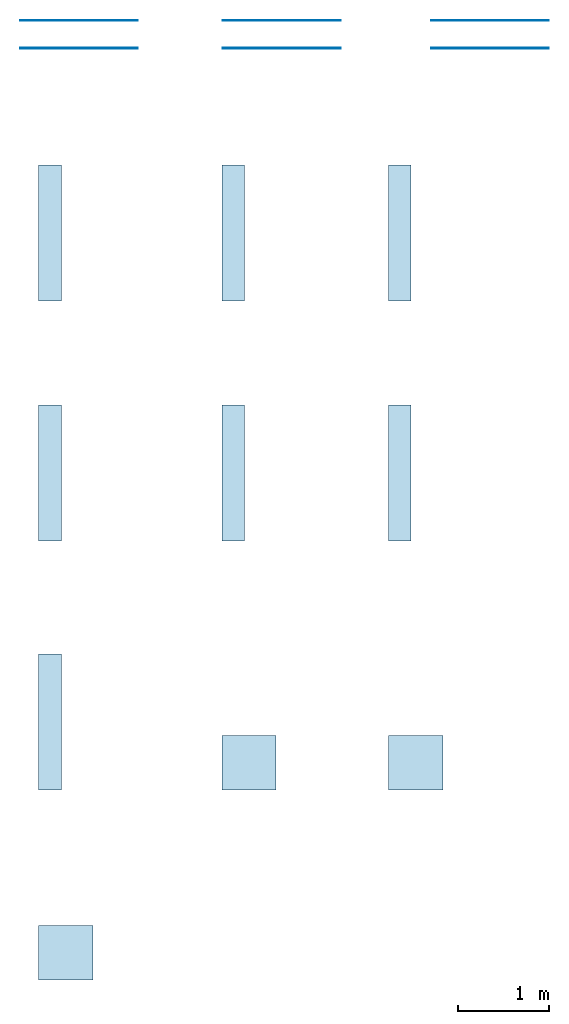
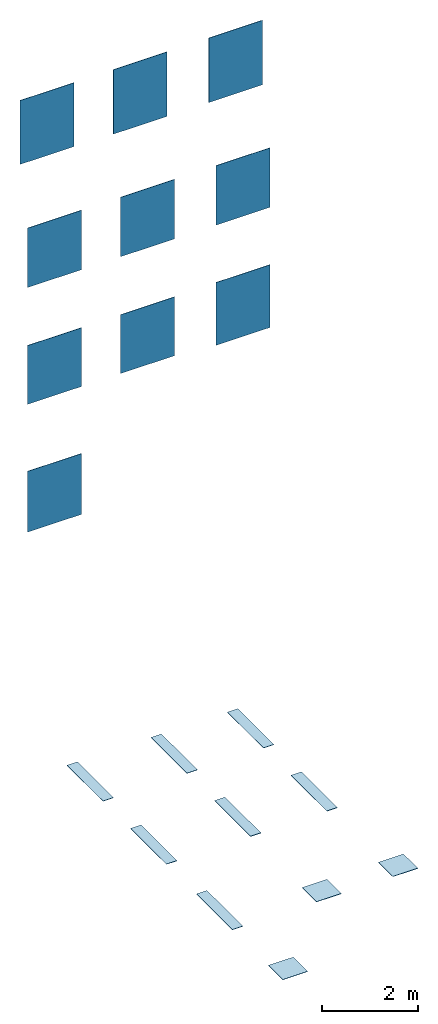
# One storey: 10 slabs, 10 walls.
"""IFC2X3 building model written with IfcOpenShell, lengths in millimetres."""

from ifc_helpers import new_model, entity, si_unit, converted_unit, derived_unit, direction, frame, frame_2d, origin, origin_2d_with_axis, place, context, subcontext, project, spatial, rectangle, extrude, material, layer, layer_set, layer_usage, type_object, element, save


model = new_model("IFC2X3")

# Units and contexts
model_context = context("Model", 3, precision=0.01, world=origin(), true_north=direction((6.123031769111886e-17, 1.0)))
body_context = subcontext(model_context, "Body", "Model", "MODEL_VIEW")
ifc_project = project(units=[si_unit("LENGTHUNIT", "METRE", prefix="MILLI"), si_unit("AREAUNIT", "SQUARE_METRE"), si_unit("VOLUMEUNIT", "CUBIC_METRE"), converted_unit("PLANEANGLEUNIT", "DEGREE", entity("IfcPlaneAngleMeasure", 0.017453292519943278), si_unit("PLANEANGLEUNIT", "RADIAN"), dimensions=[0, 0, 0, 0, 0, 0, 0]), si_unit("MASSUNIT", "GRAM", prefix="KILO"), derived_unit("MASSDENSITYUNIT", [(si_unit("MASSUNIT", "GRAM", prefix="KILO"), 1), (si_unit("LENGTHUNIT", "METRE"), -3)]), derived_unit("IONCONCENTRATIONUNIT", [(si_unit("MASSUNIT", "GRAM", prefix="KILO"), 1), (si_unit("LENGTHUNIT", "METRE"), -3)]), derived_unit("MOMENTOFINERTIAUNIT", [(si_unit("LENGTHUNIT", "METRE"), 4)]), si_unit("TIMEUNIT", "SECOND"), si_unit("FREQUENCYUNIT", "HERTZ"), si_unit("THERMODYNAMICTEMPERATUREUNIT", "DEGREE_CELSIUS"), derived_unit("THERMALTRANSMITTANCEUNIT", [(si_unit("MASSUNIT", "GRAM", prefix="KILO"), 1), (si_unit("THERMODYNAMICTEMPERATUREUNIT", "KELVIN"), -1), (si_unit("TIMEUNIT", "SECOND"), -3)]), derived_unit("THERMALCONDUCTANCEUNIT", [(si_unit("MASSUNIT", "GRAM", prefix="KILO"), 1), (si_unit("THERMODYNAMICTEMPERATUREUNIT", "KELVIN"), -1), (si_unit("TIMEUNIT", "SECOND"), -3), (si_unit("LENGTHUNIT", "METRE"), 1)]), derived_unit("VOLUMETRICFLOWRATEUNIT", [(si_unit("LENGTHUNIT", "METRE", prefix="DECI"), 3), (si_unit("TIMEUNIT", "SECOND"), -1)]), derived_unit("MASSFLOWRATEUNIT", [(si_unit("MASSUNIT", "GRAM", prefix="KILO"), 1), (si_unit("TIMEUNIT", "SECOND"), -1)]), derived_unit("ROTATIONALFREQUENCYUNIT", [(si_unit("TIMEUNIT", "SECOND"), -1)]), si_unit("ELECTRICCURRENTUNIT", "AMPERE"), si_unit("ELECTRICVOLTAGEUNIT", "VOLT"), si_unit("POWERUNIT", "WATT"), si_unit("FORCEUNIT", "NEWTON", prefix="KILO"), si_unit("ILLUMINANCEUNIT", "LUX"), si_unit("LUMINOUSFLUXUNIT", "LUMEN"), si_unit("LUMINOUSINTENSITYUNIT", "CANDELA"), si_unit("ENERGYUNIT", "JOULE"), derived_unit("USERDEFINED", [(si_unit("MASSUNIT", "GRAM", prefix="KILO"), -1), (si_unit("LENGTHUNIT", "METRE"), -2), (si_unit("TIMEUNIT", "SECOND"), 3), (si_unit("LUMINOUSFLUXUNIT", "LUMEN"), 1)]), derived_unit("USERDEFINED", [(si_unit("MASSUNIT", "GRAM", prefix="KILO"), 1), (si_unit("TIMEUNIT", "SECOND"), -3), (si_unit("LENGTHUNIT", "METRE"), 3), (si_unit("ELECTRICCURRENTUNIT", "AMPERE"), -2)]), derived_unit("SOUNDPOWERUNIT", [(si_unit("MASSUNIT", "GRAM", prefix="KILO"), 1), (si_unit("TIMEUNIT", "SECOND"), -3), (si_unit("LENGTHUNIT", "METRE"), 2)]), derived_unit("SOUNDPRESSUREUNIT", [(si_unit("MASSUNIT", "GRAM", prefix="KILO"), 1), (si_unit("LENGTHUNIT", "METRE"), -1), (si_unit("TIMEUNIT", "SECOND"), -2)]), derived_unit("LINEARVELOCITYUNIT", [(si_unit("LENGTHUNIT", "METRE"), 1), (si_unit("TIMEUNIT", "SECOND"), -1)]), si_unit("PRESSUREUNIT", "PASCAL"), derived_unit("USERDEFINED", [(si_unit("MASSUNIT", "GRAM", prefix="KILO"), 1), (si_unit("LENGTHUNIT", "METRE"), -2), (si_unit("TIMEUNIT", "SECOND"), -2)]), derived_unit("LINEARFORCEUNIT", [(si_unit("MASSUNIT", "GRAM", prefix="KILO"), 1), (si_unit("TIMEUNIT", "SECOND"), -2)]), derived_unit("PLANARFORCEUNIT", [(si_unit("MASSUNIT", "GRAM", prefix="KILO"), 1), (si_unit("LENGTHUNIT", "METRE"), -1), (si_unit("TIMEUNIT", "SECOND"), -2)]), derived_unit("SPECIFICHEATCAPACITYUNIT", [(si_unit("THERMODYNAMICTEMPERATUREUNIT", "KELVIN"), -1), (si_unit("LENGTHUNIT", "METRE"), 2), (si_unit("TIMEUNIT", "SECOND"), -2)]), derived_unit("HEATFLUXDENSITYUNIT", [(si_unit("MASSUNIT", "GRAM", prefix="KILO"), 1), (si_unit("TIMEUNIT", "SECOND"), -3)]), derived_unit("HEATINGVALUEUNIT", [(si_unit("LENGTHUNIT", "METRE"), 2), (si_unit("TIMEUNIT", "SECOND"), -2)]), derived_unit("VAPORPERMEABILITYUNIT", [(si_unit("LENGTHUNIT", "METRE"), -1), (si_unit("TIMEUNIT", "SECOND"), 1)]), derived_unit("DYNAMICVISCOSITYUNIT", [(si_unit("MASSUNIT", "GRAM", prefix="KILO"), 1), (si_unit("TIMEUNIT", "SECOND"), -1), (si_unit("LENGTHUNIT", "METRE"), -1)]), derived_unit("THERMALEXPANSIONCOEFFICIENTUNIT", [(si_unit("THERMODYNAMICTEMPERATUREUNIT", "KELVIN"), -1)]), derived_unit("MODULUSOFELASTICITYUNIT", [(si_unit("MASSUNIT", "GRAM", prefix="KILO"), 1), (si_unit("LENGTHUNIT", "METRE"), -1), (si_unit("TIMEUNIT", "SECOND"), -2)]), derived_unit("ISOTHERMALMOISTURECAPACITYUNIT", [(si_unit("MASSUNIT", "GRAM", prefix="KILO"), -1), (si_unit("LENGTHUNIT", "METRE"), 3)]), derived_unit("MOISTUREDIFFUSIVITYUNIT", [(si_unit("TIMEUNIT", "SECOND"), -1), (si_unit("LENGTHUNIT", "METRE"), 2)]), derived_unit("MASSPERLENGTHUNIT", [(si_unit("MASSUNIT", "GRAM", prefix="KILO"), 1), (si_unit("LENGTHUNIT", "METRE"), -1)]), derived_unit("THERMALRESISTANCEUNIT", [(si_unit("MASSUNIT", "GRAM", prefix="KILO"), -1), (si_unit("TIMEUNIT", "SECOND"), 3), (si_unit("THERMODYNAMICTEMPERATUREUNIT", "KELVIN"), 1)]), derived_unit("ACCELERATIONUNIT", [(si_unit("LENGTHUNIT", "METRE"), 1), (si_unit("TIMEUNIT", "SECOND"), -2)]), derived_unit("ANGULARVELOCITYUNIT", [(si_unit("TIMEUNIT", "SECOND"), -1), (si_unit("PLANEANGLEUNIT", "RADIAN"), 1)]), derived_unit("LINEARSTIFFNESSUNIT", [(si_unit("MASSUNIT", "GRAM", prefix="KILO"), 1), (si_unit("TIMEUNIT", "SECOND"), -2)]), derived_unit("WARPINGCONSTANTUNIT", [(si_unit("LENGTHUNIT", "METRE"), 6)]), derived_unit("LINEARMOMENTUNIT", [(si_unit("MASSUNIT", "GRAM", prefix="KILO"), 1), (si_unit("LENGTHUNIT", "METRE"), 1), (si_unit("TIMEUNIT", "SECOND"), -2)]), derived_unit("TORQUEUNIT", [(si_unit("MASSUNIT", "GRAM", prefix="KILO"), 1), (si_unit("LENGTHUNIT", "METRE"), 2), (si_unit("TIMEUNIT", "SECOND"), -2)])], contexts=[model_context])

# Site, building, storey
site_placement = place(None, origin())
site = spatial("IfcSite", under=ifc_project, at=site_placement, Name="Default", CompositionType="ELEMENT")
building_placement = place(site_placement, origin())
building = spatial("IfcBuilding", under=site, at=building_placement, CompositionType="ELEMENT")
storey_placement = place(building_placement, origin())
storey = spatial("IfcBuildingStorey", under=building, at=storey_placement, Name="Level 0", CompositionType="ELEMENT", Elevation=0.0)

# Slabs
ifc_material_1 = material(Name="Tamashi-Caviar-Matt-25x150 RA94")
ifc_layer_1 = layer(ifc_material_1, 9.0)
ifc_material_2 = material(Name="<Unnamed>")
ifc_layer_2 = layer(ifc_material_2, 1.0)
ifc_layer_set_1 = layer_set([ifc_layer_1, ifc_layer_2], Name="Floor:Floor_Tiles_Refin-Tamashi-Caviar-Matt_25x150_RA94")
ifc_layer_usage_1 = layer_usage(ifc_layer_set_1, "AXIS3", "POSITIVE", 0.0)
slab_type_1 = type_object("IfcSlabType", Name="Floor:Floor_Tiles_Refin-Tamashi-Caviar-Matt_25x150_RA94", PredefinedType="FLOOR", material=ifc_layer_set_1)
slab_1_placement = place(storey_placement, origin())
element("IfcSlab", 1, at=slab_1_placement, inside=storey, type_object=slab_type_1, material=ifc_layer_usage_1, Name="Floor:Floor_Tiles_Refin-Tamashi-Caviar-Matt_25x150_RA94", ObjectType="Floor:Floor_Tiles_Refin-Tamashi-Caviar-Matt_25x150_RA94", PredefinedType="FLOOR", context=body_context, shape_type="SweptSolid", body=[
    extrude(rectangle(XDim=1500.0, YDim=249.9999999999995, at=frame_2d((-5.115907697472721e-13, 0.0), x_axis=(1.0, 0.0))), frame((6249.375206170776, 5788.419206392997, 0.0), z_axis=(0.0, 0.0, -1.0), x_axis=(0.0, 1.0, 0.0)), (0.0, 0.0, 1.0), 10.0),
])
ifc_material_3 = material(Name="Tamashi-Cream-Matt-25x150 RA95")
ifc_layer_3 = layer(ifc_material_3, 9.0)
ifc_layer_4 = layer(ifc_material_2, 1.0)
ifc_layer_set_2 = layer_set([ifc_layer_3, ifc_layer_4], Name="Floor:Floor_Tiles_Refin-Tamashi-Cream-Matt_25x150_RA95")
ifc_layer_usage_2 = layer_usage(ifc_layer_set_2, "AXIS3", "POSITIVE", 0.0)
slab_type_2 = type_object("IfcSlabType", Name="Floor:Floor_Tiles_Refin-Tamashi-Cream-Matt_25x150_RA95", PredefinedType="FLOOR", material=ifc_layer_set_2)
slab_2_placement = place(storey_placement, origin())
element("IfcSlab", 2, at=slab_2_placement, inside=storey, type_object=slab_type_2, material=ifc_layer_usage_2, Name="Floor:Floor_Tiles_Refin-Tamashi-Cream-Matt_25x150_RA95", ObjectType="Floor:Floor_Tiles_Refin-Tamashi-Cream-Matt_25x150_RA95", PredefinedType="FLOOR", context=body_context, shape_type="SweptSolid", body=[
    extrude(rectangle(XDim=1500.0, YDim=249.9999999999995, at=frame_2d((-5.115907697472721e-13, 0.0), x_axis=(1.0, 0.0))), frame((8272.392405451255, 5788.41920639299, 0.0), z_axis=(0.0, 0.0, -1.0), x_axis=(0.0, 1.0, 0.0)), (0.0, 0.0, 1.0), 10.0),
])
ifc_material_4 = material(Name="Tamashi-Pepper-Matt-25x150 RA96")
ifc_layer_5 = layer(ifc_material_4, 9.0)
ifc_layer_6 = layer(ifc_material_2, 1.0)
ifc_layer_set_3 = layer_set([ifc_layer_5, ifc_layer_6], Name="Floor:Floor_Tiles_Refin-Tamashi-Pepper-Matt_25x150_RA96")
ifc_layer_usage_3 = layer_usage(ifc_layer_set_3, "AXIS3", "POSITIVE", 0.0)
slab_type_3 = type_object("IfcSlabType", Name="Floor:Floor_Tiles_Refin-Tamashi-Pepper-Matt_25x150_RA96", PredefinedType="FLOOR", material=ifc_layer_set_3)
slab_3_placement = place(storey_placement, origin())
element("IfcSlab", 3, at=slab_3_placement, inside=storey, type_object=slab_type_3, material=ifc_layer_usage_3, Name="Floor:Floor_Tiles_Refin-Tamashi-Pepper-Matt_25x150_RA96", ObjectType="Floor:Floor_Tiles_Refin-Tamashi-Pepper-Matt_25x150_RA96", PredefinedType="FLOOR", context=body_context, shape_type="SweptSolid", body=[
    extrude(rectangle(XDim=1500.0, YDim=249.9999999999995, at=frame_2d((5.115907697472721e-13, 0.0), x_axis=(1.0, 0.0))), frame((10112.392405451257, 5788.419206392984, 0.0), z_axis=(0.0, 0.0, -1.0), x_axis=(0.0, 1.0, 0.0)), (0.0, 0.0, 1.0), 10.0),
])
ifc_material_5 = material(Name="Tamashi-Sugar-Matt-25x150 RA97")
ifc_layer_7 = layer(ifc_material_5, 9.0)
ifc_layer_8 = layer(ifc_material_2, 1.0)
ifc_layer_set_4 = layer_set([ifc_layer_7, ifc_layer_8], Name="Floor:Floor_Tiles_Refin-Tamashi-Sugar-Matt_25x150_RA97")
ifc_layer_usage_4 = layer_usage(ifc_layer_set_4, "AXIS3", "POSITIVE", 0.0)
slab_type_4 = type_object("IfcSlabType", Name="Floor:Floor_Tiles_Refin-Tamashi-Sugar-Matt_25x150_RA97", PredefinedType="FLOOR", material=ifc_layer_set_4)
slab_4_placement = place(storey_placement, origin())
element("IfcSlab", 4, at=slab_4_placement, inside=storey, type_object=slab_type_4, material=ifc_layer_usage_4, Name="Floor:Floor_Tiles_Refin-Tamashi-Sugar-Matt_25x150_RA97", ObjectType="Floor:Floor_Tiles_Refin-Tamashi-Sugar-Matt_25x150_RA97", PredefinedType="FLOOR", context=body_context, shape_type="SweptSolid", body=[
    extrude(rectangle(XDim=1500.0, YDim=249.9999999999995, at=origin_2d_with_axis()), frame((6249.375206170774, 3139.462374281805, 0.0), z_axis=(0.0, 0.0, -1.0), x_axis=(0.0, 1.0, 0.0)), (0.0, 0.0, 1.0), 10.0),
])
ifc_material_6 = material(Name="Tamashi-Tea-Matt-25x150 RA98")
ifc_layer_9 = layer(ifc_material_6, 9.0)
ifc_layer_10 = layer(ifc_material_2, 1.0)
ifc_layer_set_5 = layer_set([ifc_layer_9, ifc_layer_10], Name="Floor:Floor_Tiles_Refin-Tamashi-Tea-Matt_25x150_RA98")
ifc_layer_usage_5 = layer_usage(ifc_layer_set_5, "AXIS3", "POSITIVE", 0.0)
slab_type_5 = type_object("IfcSlabType", Name="Floor:Floor_Tiles_Refin-Tamashi-Tea-Matt_25x150_RA98", PredefinedType="FLOOR", material=ifc_layer_set_5)
slab_5_placement = place(storey_placement, origin())
element("IfcSlab", 5, at=slab_5_placement, inside=storey, type_object=slab_type_5, material=ifc_layer_usage_5, Name="Floor:Floor_Tiles_Refin-Tamashi-Tea-Matt_25x150_RA98", ObjectType="Floor:Floor_Tiles_Refin-Tamashi-Tea-Matt_25x150_RA98", PredefinedType="FLOOR", context=body_context, shape_type="SweptSolid", body=[
    extrude(rectangle(XDim=1500.0, YDim=249.9999999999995, at=origin_2d_with_axis()), frame((8272.392405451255, 3139.462374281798, 0.0), z_axis=(0.0, 0.0, -1.0), x_axis=(0.0, 1.0, 0.0)), (0.0, 0.0, 1.0), 10.0),
])
ifc_material_7 = material(Name="Tamashi-Vanilla-Tea-Matt-25x150 RA99")
ifc_layer_11 = layer(ifc_material_7, 9.0)
ifc_layer_12 = layer(ifc_material_2, 1.0)
ifc_layer_set_6 = layer_set([ifc_layer_11, ifc_layer_12], Name="Floor:Floor_Tiles_Refin-Tamashi-Vanilla-Matt_25x150_RA99")
ifc_layer_usage_6 = layer_usage(ifc_layer_set_6, "AXIS3", "POSITIVE", 0.0)
slab_type_6 = type_object("IfcSlabType", Name="Floor:Floor_Tiles_Refin-Tamashi-Vanilla-Matt_25x150_RA99", PredefinedType="FLOOR", material=ifc_layer_set_6)
slab_6_placement = place(storey_placement, origin())
element("IfcSlab", 6, at=slab_6_placement, inside=storey, type_object=slab_type_6, material=ifc_layer_usage_6, Name="Floor:Floor_Tiles_Refin-Tamashi-Vanilla-Matt_25x150_RA99", ObjectType="Floor:Floor_Tiles_Refin-Tamashi-Vanilla-Matt_25x150_RA99", PredefinedType="FLOOR", context=body_context, shape_type="SweptSolid", body=[
    extrude(rectangle(XDim=1500.0, YDim=249.9999999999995, at=origin_2d_with_axis()), frame((10112.392405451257, 3139.462374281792, 0.0), z_axis=(0.0, 0.0, -1.0), x_axis=(0.0, 1.0, 0.0)), (0.0, 0.0, 1.0), 10.0),
])
ifc_material_8 = material(Name="Tamashi-Walnut-Tea-Matt-25x150 RB00")
ifc_layer_13 = layer(ifc_material_8, 9.0)
ifc_layer_14 = layer(ifc_material_2, 1.0)
ifc_layer_set_7 = layer_set([ifc_layer_13, ifc_layer_14], Name="Floor:Floor_Tiles_Refin-Tamashi-Walnut-Matt_25x150_RB00")
ifc_layer_usage_7 = layer_usage(ifc_layer_set_7, "AXIS3", "POSITIVE", 0.0)
slab_type_7 = type_object("IfcSlabType", Name="Floor:Floor_Tiles_Refin-Tamashi-Walnut-Matt_25x150_RB00", PredefinedType="FLOOR", material=ifc_layer_set_7)
slab_7_placement = place(storey_placement, origin())
element("IfcSlab", 7, at=slab_7_placement, inside=storey, type_object=slab_type_7, material=ifc_layer_usage_7, Name="Floor:Floor_Tiles_Refin-Tamashi-Walnut-Matt_25x150_RB00", ObjectType="Floor:Floor_Tiles_Refin-Tamashi-Walnut-Matt_25x150_RB00", PredefinedType="FLOOR", context=body_context, shape_type="SweptSolid", body=[
    extrude(rectangle(XDim=1500.0, YDim=249.9999999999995, at=origin_2d_with_axis()), frame((6249.37520617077, 389.4623742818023, 0.0), z_axis=(0.0, 0.0, -1.0), x_axis=(0.0, 1.0, 0.0)), (0.0, 0.0, 1.0), 10.0),
])
ifc_material_9 = material(Name="Tamashi-Pepper-Leaf-Matt-60x60 RB13")
ifc_layer_15 = layer(ifc_material_9, 9.0)
ifc_layer_16 = layer(ifc_material_2, 1.0)
ifc_layer_set_8 = layer_set([ifc_layer_15, ifc_layer_16], Name="Floor:Floor_Tiles_Refin-Tamashi-Pepper-Leaf-Matt_25x150_RB13")
ifc_layer_usage_8 = layer_usage(ifc_layer_set_8, "AXIS3", "POSITIVE", 0.0)
slab_type_8 = type_object("IfcSlabType", Name="Floor:Floor_Tiles_Refin-Tamashi-Pepper-Leaf-Matt_25x150_RB13", PredefinedType="FLOOR", material=ifc_layer_set_8)
slab_8_placement = place(storey_placement, origin())
element("IfcSlab", 8, at=slab_8_placement, inside=storey, type_object=slab_type_8, material=ifc_layer_usage_8, Name="Floor:Floor_Tiles_Refin-Tamashi-Pepper-Leaf-Matt_25x150_RB13", ObjectType="Floor:Floor_Tiles_Refin-Tamashi-Pepper-Leaf-Matt_25x150_RB13", PredefinedType="FLOOR", context=body_context, shape_type="SweptSolid", body=[
    extrude(rectangle(XDim=600.0, YDim=600.0, at=origin_2d_with_axis()), frame((8447.392405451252, -60.53762571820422, 0.0), z_axis=(0.0, 0.0, -1.0), x_axis=(0.0, 1.0, 0.0)), (0.0, 0.0, 1.0), 10.0),
])
ifc_material_10 = material(Name="Tamashi-Tea-Leaf-Matt-60x60 RB14")
ifc_layer_17 = layer(ifc_material_10, 9.0)
ifc_layer_18 = layer(ifc_material_2, 1.0)
ifc_layer_set_9 = layer_set([ifc_layer_17, ifc_layer_18], Name="Floor:Floor_Tiles_Refin-Tamashi-Tea-Leaf-Matt_25x150_RB14")
ifc_layer_usage_9 = layer_usage(ifc_layer_set_9, "AXIS3", "POSITIVE", 0.0)
slab_type_9 = type_object("IfcSlabType", Name="Floor:Floor_Tiles_Refin-Tamashi-Tea-Leaf-Matt_25x150_RB14", PredefinedType="FLOOR", material=ifc_layer_set_9)
slab_9_placement = place(storey_placement, origin())
element("IfcSlab", 9, at=slab_9_placement, inside=storey, type_object=slab_type_9, material=ifc_layer_usage_9, Name="Floor:Floor_Tiles_Refin-Tamashi-Tea-Leaf-Matt_25x150_RB14", ObjectType="Floor:Floor_Tiles_Refin-Tamashi-Tea-Leaf-Matt_25x150_RB14", PredefinedType="FLOOR", context=body_context, shape_type="SweptSolid", body=[
    extrude(rectangle(XDim=600.0, YDim=600.0, at=frame_2d((0.0, 1.0800249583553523e-12), x_axis=(1.0, 0.0))), frame((10287.392405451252, -60.53762571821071, 0.0), z_axis=(0.0, 0.0, -1.0), x_axis=(0.0, 1.0, 0.0)), (0.0, 0.0, 1.0), 10.0),
])
ifc_material_11 = material(Name="Tamashi-Walnut-Leaf-Matt-60x60 RB15")
ifc_layer_19 = layer(ifc_material_11, 9.0)
ifc_layer_20 = layer(ifc_material_2, 1.0)
ifc_layer_set_10 = layer_set([ifc_layer_19, ifc_layer_20], Name="Floor:Floor_Tiles_Refin-Tamashi-Walnut-Leaf-Matt_25x150_RB15")
ifc_layer_usage_10 = layer_usage(ifc_layer_set_10, "AXIS3", "POSITIVE", 0.0)
slab_type_10 = type_object("IfcSlabType", Name="Floor:Floor_Tiles_Refin-Tamashi-Walnut-Leaf-Matt_25x150_RB15", PredefinedType="FLOOR", material=ifc_layer_set_10)
slab_10_placement = place(storey_placement, origin())
element("IfcSlab", 10, at=slab_10_placement, inside=storey, type_object=slab_type_10, material=ifc_layer_usage_10, Name="Floor:Floor_Tiles_Refin-Tamashi-Walnut-Leaf-Matt_25x150_RB15", ObjectType="Floor:Floor_Tiles_Refin-Tamashi-Walnut-Leaf-Matt_25x150_RB15", PredefinedType="FLOOR", context=body_context, shape_type="SweptSolid", body=[
    extrude(rectangle(XDim=600.0, YDim=600.0, at=origin_2d_with_axis()), frame((6424.375206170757, -2160.537625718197, 0.0), z_axis=(0.0, 0.0, -1.0), x_axis=(0.0, 1.0, 0.0)), (0.0, 0.0, 1.0), 10.0),
])

# Walls
ifc_layer_21 = layer(ifc_material_2, 1.0)
ifc_layer_22 = layer(ifc_material_3, 9.0)
ifc_layer_set_11 = layer_set([ifc_layer_21, ifc_layer_22], Name="Basic Wall:Wall_Tiles_Refin-Tamashi-Cream-Matt_25x150_RA95")
ifc_layer_usage_11 = layer_usage(ifc_layer_set_11, "AXIS2", "NEGATIVE", 5.000000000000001)
wall_type_1 = type_object("IfcWallType", Name="Basic Wall:Wall_Tiles_Refin-Tamashi-Cream-Matt_25x150_RA95", PredefinedType="STANDARD", material=ifc_layer_set_11)
wall_1_placement = place(storey_placement, frame((8157.37520617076, 8137.383863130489, 14387.677044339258)))
element("IfcWallStandardCase", 11, at=wall_1_placement, inside=storey, type_object=wall_type_1, material=ifc_layer_usage_11, Name="Basic Wall:Wall_Tiles_Refin-Tamashi-Cream-Matt_25x150_RA95", ObjectType="Basic Wall:Wall_Tiles_Refin-Tamashi-Cream-Matt_25x150_RA95", context=body_context, shape_type="SweptSolid", body=[
    extrude(rectangle(XDim=1300.0, YDim=9.999999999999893, at=frame_2d((650.0, 7.638334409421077e-14), x_axis=(-1.0, 0.0))), origin(), (0.0, 0.0, 1.0), 1641.7417352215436),
])
ifc_layer_23 = layer(ifc_material_2, 1.0)
ifc_layer_24 = layer(ifc_material_4, 9.0)
ifc_layer_set_12 = layer_set([ifc_layer_23, ifc_layer_24], Name="Basic Wall:Wall_Tiles_Refin-Tamashi-Pepper-Matt_25x150_RA96")
ifc_layer_usage_12 = layer_usage(ifc_layer_set_12, "AXIS2", "NEGATIVE", 5.000000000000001)
wall_type_2 = type_object("IfcWallType", Name="Basic Wall:Wall_Tiles_Refin-Tamashi-Pepper-Matt_25x150_RA96", PredefinedType="STANDARD", material=ifc_layer_set_12)
wall_2_placement = place(storey_placement, frame((10457.375206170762, 8137.383863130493, 14387.677044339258)))
element("IfcWallStandardCase", 12, at=wall_2_placement, inside=storey, type_object=wall_type_2, material=ifc_layer_usage_12, Name="Basic Wall:Wall_Tiles_Refin-Tamashi-Pepper-Matt_25x150_RA96", ObjectType="Basic Wall:Wall_Tiles_Refin-Tamashi-Pepper-Matt_25x150_RA96", context=body_context, shape_type="SweptSolid", body=[
    extrude(rectangle(XDim=1299.999999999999, YDim=9.999999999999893, at=frame_2d((649.9999999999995, 7.638334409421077e-14), x_axis=(-1.0, 0.0))), origin(), (0.0, 0.0, 1.0), 1641.7417352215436),
])
ifc_layer_25 = layer(ifc_material_2, 1.0)
ifc_layer_26 = layer(ifc_material_1, 9.0)
ifc_layer_set_13 = layer_set([ifc_layer_25, ifc_layer_26], Name="Basic Wall:Wall_Tiles_Refin-Tamashi-Caviar-Matt_25x150_RA94")
ifc_layer_usage_13 = layer_usage(ifc_layer_set_13, "AXIS2", "NEGATIVE", 5.000000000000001)
wall_type_3 = type_object("IfcWallType", Name="Basic Wall:Wall_Tiles_Refin-Tamashi-Caviar-Matt_25x150_RA94", PredefinedType="STANDARD", material=ifc_layer_set_13)
wall_3_placement = place(storey_placement, frame((5917.375206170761, 8137.383863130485, 14403.726734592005)))
element("IfcWallStandardCase", 13, at=wall_3_placement, inside=storey, type_object=wall_type_3, material=ifc_layer_usage_13, Name="Basic Wall:Wall_Tiles_Refin-Tamashi-Caviar-Matt_25x150_RA94", ObjectType="Basic Wall:Wall_Tiles_Refin-Tamashi-Caviar-Matt_25x150_RA94", context=body_context, shape_type="SweptSolid", body=[
    extrude(rectangle(XDim=1300.0, YDim=9.999999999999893, at=frame_2d((650.0, 7.638334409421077e-14), x_axis=(-1.0, 0.0))), origin(), (0.0, 0.0, 1.0), 1625.692044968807),
])
ifc_layer_27 = layer(ifc_material_2, 1.0)
ifc_layer_28 = layer(ifc_material_5, 9.0)
ifc_layer_set_14 = layer_set([ifc_layer_27, ifc_layer_28], Name="Basic Wall:Wall_Tiles_Refin-Tamashi-Sugar-Matt_25x150_RA97")
ifc_layer_usage_14 = layer_usage(ifc_layer_set_14, "AXIS2", "NEGATIVE", 5.000000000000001)
wall_type_4 = type_object("IfcWallType", Name="Basic Wall:Wall_Tiles_Refin-Tamashi-Sugar-Matt_25x150_RA97", PredefinedType="STANDARD", material=ifc_layer_set_14)
wall_4_placement = place(storey_placement, frame((5917.375206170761, 7832.3838631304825, 11452.543626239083)))
element("IfcWallStandardCase", 14, at=wall_4_placement, inside=storey, type_object=wall_type_4, material=ifc_layer_usage_14, Name="Basic Wall:Wall_Tiles_Refin-Tamashi-Sugar-Matt_25x150_RA97", ObjectType="Basic Wall:Wall_Tiles_Refin-Tamashi-Sugar-Matt_25x150_RA97", context=body_context, shape_type="SweptSolid", body=[
    extrude(rectangle(XDim=1300.0, YDim=9.999999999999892, at=frame_2d((650.0, 0.0), x_axis=(-1.0, 0.0))), origin(), (0.0, 0.0, 1.0), 1513.1985565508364),
])
ifc_layer_29 = layer(ifc_material_2, 1.0)
ifc_layer_30 = layer(ifc_material_6, 9.0)
ifc_layer_set_15 = layer_set([ifc_layer_29, ifc_layer_30], Name="Basic Wall:Wall_Tiles_Refin-Tamashi-Tea-Matt_25x150_RA98")
ifc_layer_usage_15 = layer_usage(ifc_layer_set_15, "AXIS2", "NEGATIVE", 5.000000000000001)
wall_type_5 = type_object("IfcWallType", Name="Basic Wall:Wall_Tiles_Refin-Tamashi-Tea-Matt_25x150_RA98", PredefinedType="STANDARD", material=ifc_layer_set_15)
wall_5_placement = place(storey_placement, frame((8157.375206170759, 7832.383863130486, 11452.543626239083)))
element("IfcWallStandardCase", 15, at=wall_5_placement, inside=storey, type_object=wall_type_5, material=ifc_layer_usage_15, Name="Basic Wall:Wall_Tiles_Refin-Tamashi-Tea-Matt_25x150_RA98", ObjectType="Basic Wall:Wall_Tiles_Refin-Tamashi-Tea-Matt_25x150_RA98", context=body_context, shape_type="SweptSolid", body=[
    extrude(rectangle(XDim=1300.0, YDim=9.999999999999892, at=frame_2d((650.0, 0.0), x_axis=(-1.0, 0.0))), origin(), (0.0, 0.0, 1.0), 1513.1985565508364),
])
ifc_layer_31 = layer(ifc_material_2, 1.0)
ifc_layer_32 = layer(ifc_material_7, 9.0)
ifc_layer_set_16 = layer_set([ifc_layer_31, ifc_layer_32], Name="Basic Wall:Wall_Tiles_Refin-Tamashi-Vanilla-Matt_25x150_RA99")
ifc_layer_usage_16 = layer_usage(ifc_layer_set_16, "AXIS2", "NEGATIVE", 5.000000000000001)
wall_type_6 = type_object("IfcWallType", Name="Basic Wall:Wall_Tiles_Refin-Tamashi-Vanilla-Matt_25x150_RA99", PredefinedType="STANDARD", material=ifc_layer_set_16)
wall_6_placement = place(storey_placement, frame((10457.37520617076, 7832.383863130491, 11452.543626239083)))
element("IfcWallStandardCase", 16, at=wall_6_placement, inside=storey, type_object=wall_type_6, material=ifc_layer_usage_16, Name="Basic Wall:Wall_Tiles_Refin-Tamashi-Vanilla-Matt_25x150_RA99", ObjectType="Basic Wall:Wall_Tiles_Refin-Tamashi-Vanilla-Matt_25x150_RA99", context=body_context, shape_type="SweptSolid", body=[
    extrude(rectangle(XDim=1300.0000000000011, YDim=9.999999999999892, at=frame_2d((650.0000000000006, 0.0), x_axis=(-1.0, 0.0))), origin(), (0.0, 0.0, 1.0), 1513.1985565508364),
])
ifc_layer_33 = layer(ifc_material_2, 1.0)
ifc_layer_34 = layer(ifc_material_9, 9.0)
ifc_layer_set_17 = layer_set([ifc_layer_33, ifc_layer_34], Name="Basic Wall:Wall_Tiles_Refin-Tamashi-Pepper-Leaf-Matt_60x60_RB13")
ifc_layer_usage_17 = layer_usage(ifc_layer_set_17, "AXIS2", "NEGATIVE", 5.000000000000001)
wall_type_7 = type_object("IfcWallType", Name="Basic Wall:Wall_Tiles_Refin-Tamashi-Pepper-Leaf-Matt_60x60_RB13", PredefinedType="STANDARD", material=ifc_layer_set_17)
wall_7_placement = place(storey_placement, frame((8157.375206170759, 7832.383863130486, 8478.92163291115)))
element("IfcWallStandardCase", 17, at=wall_7_placement, inside=storey, type_object=wall_type_7, material=ifc_layer_usage_17, Name="Basic Wall:Wall_Tiles_Refin-Tamashi-Pepper-Leaf-Matt_60x60_RB13", ObjectType="Basic Wall:Wall_Tiles_Refin-Tamashi-Pepper-Leaf-Matt_60x60_RB13", context=body_context, shape_type="SweptSolid", body=[
    extrude(rectangle(XDim=1300.0, YDim=9.999999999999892, at=frame_2d((650.0, 0.0), x_axis=(-1.0, 0.0))), origin(), (0.0, 0.0, 1.0), 1496.3372095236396),
])
ifc_layer_35 = layer(ifc_material_2, 1.0)
ifc_layer_36 = layer(ifc_material_8, 9.0)
ifc_layer_set_18 = layer_set([ifc_layer_35, ifc_layer_36], Name="Basic Wall:Wall_Tiles_Refin-Tamashi-Walnut-Matt_25x150_RB00")
ifc_layer_usage_18 = layer_usage(ifc_layer_set_18, "AXIS2", "NEGATIVE", 5.000000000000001)
wall_type_8 = type_object("IfcWallType", Name="Basic Wall:Wall_Tiles_Refin-Tamashi-Walnut-Matt_25x150_RB00", PredefinedType="STANDARD", material=ifc_layer_set_18)
wall_8_placement = place(storey_placement, frame((5917.375206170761, 7832.3838631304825, 8478.92163291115)))
element("IfcWallStandardCase", 18, at=wall_8_placement, inside=storey, type_object=wall_type_8, material=ifc_layer_usage_18, Name="Basic Wall:Wall_Tiles_Refin-Tamashi-Walnut-Matt_25x150_RB00", ObjectType="Basic Wall:Wall_Tiles_Refin-Tamashi-Walnut-Matt_25x150_RB00", context=body_context, shape_type="SweptSolid", body=[
    extrude(rectangle(XDim=1300.0, YDim=9.999999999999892, at=frame_2d((650.0, 0.0), x_axis=(-1.0, 0.0))), origin(), (0.0, 0.0, 1.0), 1496.3372095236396),
])
ifc_layer_37 = layer(ifc_material_2, 1.0)
ifc_layer_38 = layer(ifc_material_10, 9.0)
ifc_layer_set_19 = layer_set([ifc_layer_37, ifc_layer_38], Name="Basic Wall:Wall_Tiles_Refin-Tamashi-Tea-Leaf-Matt_60x60_RB14")
ifc_layer_usage_19 = layer_usage(ifc_layer_set_19, "AXIS2", "NEGATIVE", 5.000000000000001)
wall_type_9 = type_object("IfcWallType", Name="Basic Wall:Wall_Tiles_Refin-Tamashi-Tea-Leaf-Matt_60x60_RB14", PredefinedType="STANDARD", material=ifc_layer_set_19)
wall_9_placement = place(storey_placement, frame((10457.37520617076, 7832.383863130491, 8391.952674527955)))
element("IfcWallStandardCase", 19, at=wall_9_placement, inside=storey, type_object=wall_type_9, material=ifc_layer_usage_19, Name="Basic Wall:Wall_Tiles_Refin-Tamashi-Tea-Leaf-Matt_60x60_RB14", ObjectType="Basic Wall:Wall_Tiles_Refin-Tamashi-Tea-Leaf-Matt_60x60_RB14", context=body_context, shape_type="SweptSolid", body=[
    extrude(rectangle(XDim=1300.0000000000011, YDim=9.999999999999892, at=frame_2d((650.0000000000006, 0.0), x_axis=(-1.0, 0.0))), origin(), (0.0, 0.0, 1.0), 1597.8232233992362),
])
ifc_layer_39 = layer(ifc_material_2, 1.0)
ifc_layer_40 = layer(ifc_material_11, 9.0)
ifc_layer_set_20 = layer_set([ifc_layer_39, ifc_layer_40], Name="Basic Wall:Wall_Tiles_Refin-Tamashi-Walnut-Leaf-Matt_60x60_RB15")
ifc_layer_usage_20 = layer_usage(ifc_layer_set_20, "AXIS2", "NEGATIVE", 5.000000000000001)
wall_type_10 = type_object("IfcWallType", Name="Basic Wall:Wall_Tiles_Refin-Tamashi-Walnut-Leaf-Matt_60x60_RB15", PredefinedType="STANDARD", material=ifc_layer_set_20)
wall_10_placement = place(storey_placement, frame((5917.375206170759, 7832.383863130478, 5224.070797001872)))
element("IfcWallStandardCase", 20, at=wall_10_placement, inside=storey, type_object=wall_type_10, material=ifc_layer_usage_20, Name="Basic Wall:Wall_Tiles_Refin-Tamashi-Walnut-Leaf-Matt_60x60_RB15", ObjectType="Basic Wall:Wall_Tiles_Refin-Tamashi-Walnut-Leaf-Matt_60x60_RB15", context=body_context, shape_type="SweptSolid", body=[
    extrude(rectangle(XDim=1300.0, YDim=9.999999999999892, at=frame_2d((650.0, 0.0), x_axis=(-1.0, 0.0))), origin(), (0.0, 0.0, 1.0), 1547.815186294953),
])

save(model, "model.ifc")
